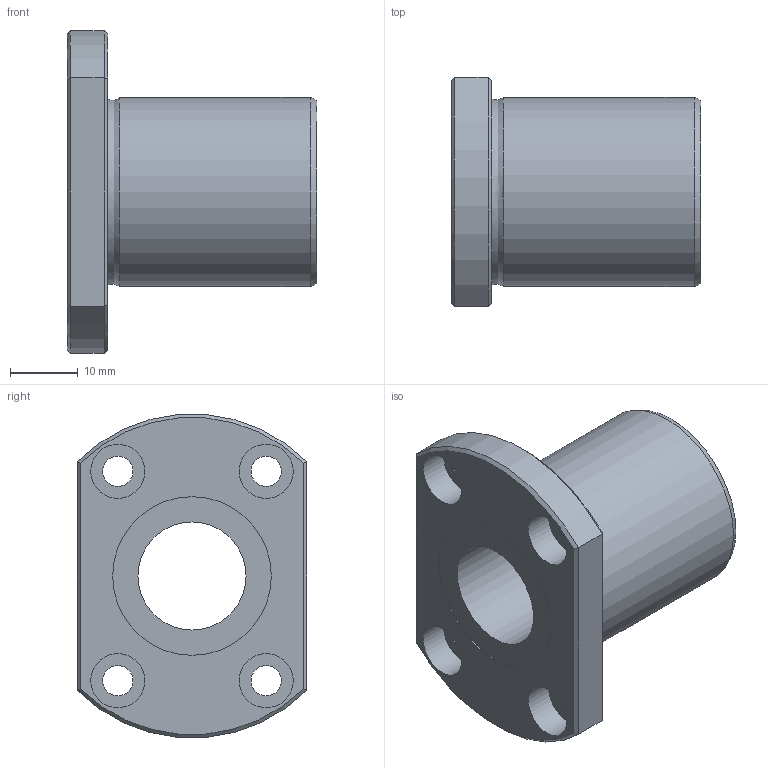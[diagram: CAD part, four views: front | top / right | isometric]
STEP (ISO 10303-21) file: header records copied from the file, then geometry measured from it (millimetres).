
FILE_DESCRIPTION((''),'2;1');
FILE_NAME('D:\製品 (図面)\カタログ用3D\リニアベアリング関連\STEP形式\LFT\LFT16B.stp','2010-06-04T09:17:10',('Tsuchiya'),(''),'Autodesk Inventor 10','Autodesk Inventor 10','');
FILE_SCHEMA(('AUTOMOTIVE_DESIGN { 1 0 10303 214 1 1 1 1 }'));
Length unit declared in the file: millimetre
Products named in the file (1): LFT16B
Bounding box: 37 x 34 x 47.82 mm (x, y, z)
Volume: 19426.6 mm3; surface area: 8325.2 mm2
Topology: 1 solids, 1 shells, 35 faces, 68 edges, 42 vertices
Faces by surface type: plane 15, cylinder 14, cone 4, torus 1, bspline 1
Full cylindrical faces by diameter (mm): 4.5 x4, 8 x4, 16 x1, 23.5 x2, 28 x1
Entity records: 935 total; most frequent: CARTESIAN_POINT 218, DIRECTION 150, ORIENTED_EDGE 108, AXIS2_PLACEMENT_3D 69, EDGE_LOOP 66, EDGE_CURVE 54, VERTEX_POINT 42, FACE_OUTER_BOUND 35
